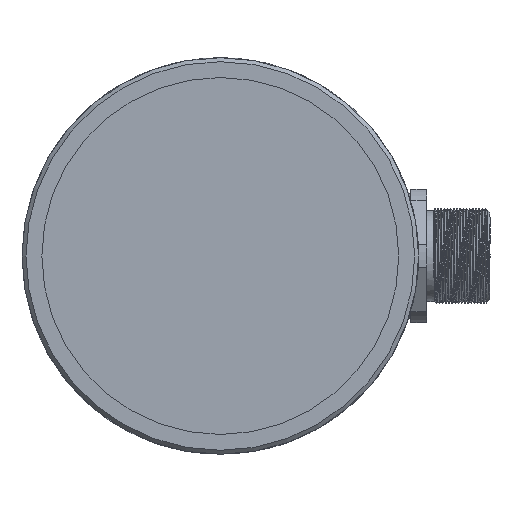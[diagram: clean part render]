
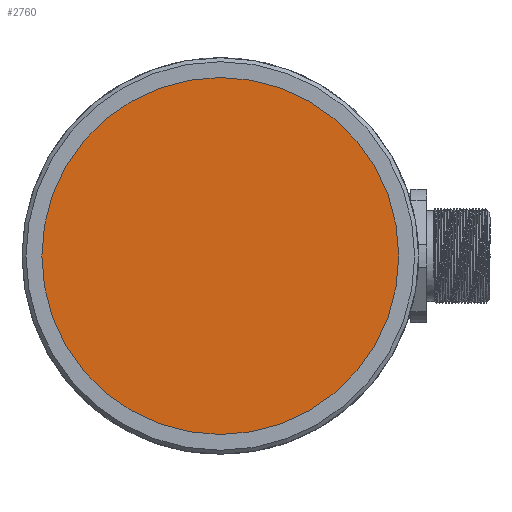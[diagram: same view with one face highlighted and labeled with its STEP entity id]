
A CAD part, left-side view. The second image highlights one B-rep face of the part: STEP entity #2760.
In plain terms, the highlighted planar face has unit normal (-1, 0, 0).
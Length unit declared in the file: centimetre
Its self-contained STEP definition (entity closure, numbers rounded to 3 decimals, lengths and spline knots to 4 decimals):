
#801=CIRCLE('',#2930,2.25);
#886=VERTEX_POINT('',#3597);
#1331=EDGE_CURVE('',#886,#886,#801,.T.);
#1673=ORIENTED_EDGE('',*,*,#1331,.T.);
#2340=EDGE_LOOP('',(#1673));
#2551=FACE_BOUND('',#2340,.T.);
#2760=ADVANCED_FACE('',(#2551),#16128,.T.);
#2930=AXIS2_PLACEMENT_3D('',#3596,#3142,#3143);
#2932=AXIS2_PLACEMENT_3D('',#3600,#3146,$);
#3142=DIRECTION('',(-1.,0.,0.));
#3143=DIRECTION('',(0.,0.,2.25));
#3146=DIRECTION('',(-1.,0.,0.));
#3596=CARTESIAN_POINT('',(0.1,0.,0.));
#3597=CARTESIAN_POINT('',(0.1,0.,2.25));
#3600=CARTESIAN_POINT('',(0.1,0.,0.));
#16128=PLANE('',#2932);
